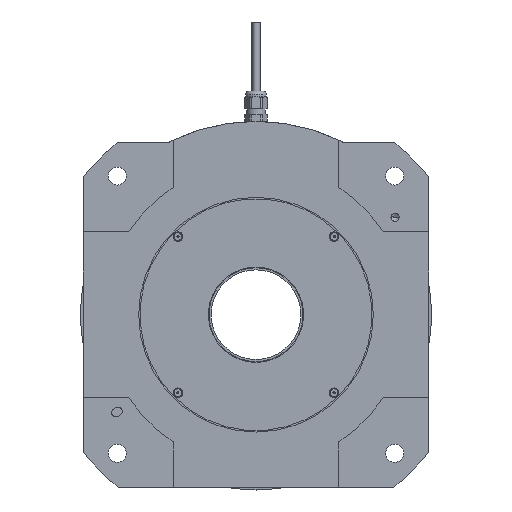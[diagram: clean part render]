
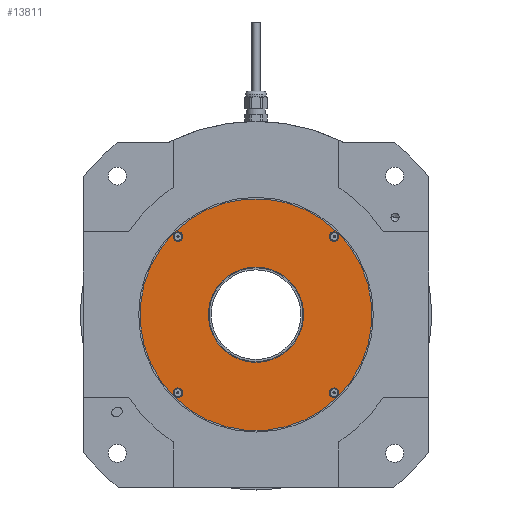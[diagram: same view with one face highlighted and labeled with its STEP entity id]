
A CAD part, front view. The second image highlights one B-rep face of the part: STEP entity #13811.
In plain terms, the highlighted planar face has unit normal (0, -1, 0).
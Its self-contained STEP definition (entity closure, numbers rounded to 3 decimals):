
#37 = EDGE_CURVE ( 'NONE', #7157, #21520, #25900, .T. ) ;
#582 = CARTESIAN_POINT ( 'NONE',  ( 56.569, 1.5, -56.569 ) ) ;
#743 = AXIS2_PLACEMENT_3D ( 'NONE', #2066, #18224, #12539 ) ;
#1050 = EDGE_LOOP ( 'NONE', ( #25896, #25505 ) ) ;
#1263 = ORIENTED_EDGE ( 'NONE', *, *, #20908, .T. ) ;
#1483 = CIRCLE ( 'NONE', #21371, 34.5 ) ;
#1626 = DIRECTION ( 'NONE',  ( -0.707, 0., 0.707 ) ) ;
#1827 = CARTESIAN_POINT ( 'NONE',  ( -56.569, 1.5, -56.569 ) ) ;
#1958 = VERTEX_POINT ( 'NONE', #3382 ) ;
#2066 = CARTESIAN_POINT ( 'NONE',  ( 56.569, 1.5, -56.569 ) ) ;
#2503 = CARTESIAN_POINT ( 'NONE',  ( 0., 1.5, 0. ) ) ;
#2561 = VERTEX_POINT ( 'NONE', #24650 ) ;
#2697 = DIRECTION ( 'NONE',  ( 0., 1., 0. ) ) ;
#3147 = VERTEX_POINT ( 'NONE', #3899 ) ;
#3333 = DIRECTION ( 'NONE',  ( 0.707, 0., -0.707 ) ) ;
#3355 = DIRECTION ( 'NONE',  ( 0.707, 0., -0.707 ) ) ;
#3356 = DIRECTION ( 'NONE',  ( 0., 1., 0. ) ) ;
#3382 = CARTESIAN_POINT ( 'NONE',  ( -57.983, 1.5, -55.154 ) ) ;
#3873 = CARTESIAN_POINT ( 'NONE',  ( 56.569, 1.5, 56.569 ) ) ;
#3899 = CARTESIAN_POINT ( 'NONE',  ( 24.395, 1.5, -24.395 ) ) ;
#4083 = VERTEX_POINT ( 'NONE', #16720 ) ;
#4586 = ORIENTED_EDGE ( 'NONE', *, *, #20556, .F. ) ;
#5010 = DIRECTION ( 'NONE',  ( 0., 1., 0. ) ) ;
#5174 = FACE_BOUND ( 'NONE', #24285, .T. ) ;
#5944 = CARTESIAN_POINT ( 'NONE',  ( 56.569, 1.5, 56.569 ) ) ;
#6692 = CARTESIAN_POINT ( 'NONE',  ( -55.154, 1.5, -57.983 ) ) ;
#7157 = VERTEX_POINT ( 'NONE', #24456 ) ;
#7349 = EDGE_LOOP ( 'NONE', ( #17542, #1263 ) ) ;
#7419 = FACE_BOUND ( 'NONE', #1050, .T. ) ;
#7607 = VERTEX_POINT ( 'NONE', #6692 ) ;
#7847 = DIRECTION ( 'NONE',  ( 0., 1., 0. ) ) ;
#7952 = DIRECTION ( 'NONE',  ( 0., 1., 0. ) ) ;
#8115 = CIRCLE ( 'NONE', #8178, 34.5 ) ;
#8178 = AXIS2_PLACEMENT_3D ( 'NONE', #13657, #7952, #9683 ) ;
#8550 = AXIS2_PLACEMENT_3D ( 'NONE', #3873, #7847, #16065 ) ;
#8587 = DIRECTION ( 'NONE',  ( 0.707, 0., -0.707 ) ) ;
#8639 = EDGE_CURVE ( 'NONE', #4083, #12929, #20186, .T. ) ;
#8852 = AXIS2_PLACEMENT_3D ( 'NONE', #17001, #2697, #24955 ) ;
#9683 = DIRECTION ( 'NONE',  ( 0.707, 0., -0.707 ) ) ;
#9790 = VERTEX_POINT ( 'NONE', #13780 ) ;
#9920 = DIRECTION ( 'NONE',  ( 0.707, 0., 0.707 ) ) ;
#10001 = CARTESIAN_POINT ( 'NONE',  ( -56.569, 1.5, 56.569 ) ) ;
#10519 = EDGE_CURVE ( 'NONE', #23707, #25472, #19859, .T. ) ;
#11261 = CIRCLE ( 'NONE', #13802, 2. ) ;
#11323 = EDGE_CURVE ( 'NONE', #2561, #20420, #18190, .T. ) ;
#11400 = EDGE_LOOP ( 'NONE', ( #12484, #22764 ) ) ;
#11409 = FACE_BOUND ( 'NONE', #11400, .T. ) ;
#11738 = EDGE_CURVE ( 'NONE', #7607, #1958, #19760, .T. ) ;
#11885 = DIRECTION ( 'NONE',  ( 0., 1., 0. ) ) ;
#12063 = CIRCLE ( 'NONE', #21347, 84. ) ;
#12143 = AXIS2_PLACEMENT_3D ( 'NONE', #21808, #11885, #21670 ) ;
#12289 = EDGE_CURVE ( 'NONE', #25472, #23707, #15556, .T. ) ;
#12420 = EDGE_CURVE ( 'NONE', #12929, #4083, #13024, .T. ) ;
#12484 = ORIENTED_EDGE ( 'NONE', *, *, #12289, .T. ) ;
#12539 = DIRECTION ( 'NONE',  ( -0.707, 0., 0.707 ) ) ;
#12916 = ORIENTED_EDGE ( 'NONE', *, *, #11323, .F. ) ;
#12929 = VERTEX_POINT ( 'NONE', #16265 ) ;
#13024 = CIRCLE ( 'NONE', #25289, 2. ) ;
#13187 = AXIS2_PLACEMENT_3D ( 'NONE', #13266, #15780, #3333 ) ;
#13266 = CARTESIAN_POINT ( 'NONE',  ( 0., 1.5, 0. ) ) ;
#13657 = CARTESIAN_POINT ( 'NONE',  ( 0., 1.5, 0. ) ) ;
#13780 = CARTESIAN_POINT ( 'NONE',  ( -24.395, 1.5, 24.395 ) ) ;
#13783 = DIRECTION ( 'NONE',  ( 0., 1., 0. ) ) ;
#13802 = AXIS2_PLACEMENT_3D ( 'NONE', #1827, #25810, #9920 ) ;
#13811 = ADVANCED_FACE ( 'NONE', ( #23327, #5174, #7419, #11409, #25573, #15647 ), #23459, .F. ) ;
#14228 = ORIENTED_EDGE ( 'NONE', *, *, #37, .T. ) ;
#14536 = CARTESIAN_POINT ( 'NONE',  ( 0., 1.5, 0. ) ) ;
#15107 = CARTESIAN_POINT ( 'NONE',  ( 0., 1.5, 0. ) ) ;
#15556 = CIRCLE ( 'NONE', #18075, 2. ) ;
#15647 = FACE_OUTER_BOUND ( 'NONE', #21452, .T. ) ;
#15775 = CARTESIAN_POINT ( 'NONE',  ( 55.154, 1.5, 57.983 ) ) ;
#15780 = DIRECTION ( 'NONE',  ( 0., 1., 0. ) ) ;
#16065 = DIRECTION ( 'NONE',  ( -0.707, 0., -0.707 ) ) ;
#16265 = CARTESIAN_POINT ( 'NONE',  ( 55.154, 1.5, -55.154 ) ) ;
#16537 = CARTESIAN_POINT ( 'NONE',  ( 59.397, 1.5, -59.397 ) ) ;
#16720 = CARTESIAN_POINT ( 'NONE',  ( 57.983, 1.5, -57.983 ) ) ;
#16809 = DIRECTION ( 'NONE',  ( 0.707, 0., -0.707 ) ) ;
#17001 = CARTESIAN_POINT ( 'NONE',  ( -56.569, 1.5, 56.569 ) ) ;
#17542 = ORIENTED_EDGE ( 'NONE', *, *, #23056, .T. ) ;
#17709 = EDGE_CURVE ( 'NONE', #21520, #7157, #23117, .T. ) ;
#17726 = ORIENTED_EDGE ( 'NONE', *, *, #8639, .T. ) ;
#17780 = AXIS2_PLACEMENT_3D ( 'NONE', #15107, #5010, #8587 ) ;
#17949 = DIRECTION ( 'NONE',  ( 0., 1., 0. ) ) ;
#18075 = AXIS2_PLACEMENT_3D ( 'NONE', #10001, #17949, #20314 ) ;
#18080 = ORIENTED_EDGE ( 'NONE', *, *, #17709, .T. ) ;
#18190 = CIRCLE ( 'NONE', #17780, 84. ) ;
#18224 = DIRECTION ( 'NONE',  ( 0., 1., 0. ) ) ;
#18657 = DIRECTION ( 'NONE',  ( 0., 1., 0. ) ) ;
#19720 = AXIS2_PLACEMENT_3D ( 'NONE', #5944, #13783, #21965 ) ;
#19760 = CIRCLE ( 'NONE', #12143, 2. ) ;
#19859 = CIRCLE ( 'NONE', #8852, 2. ) ;
#20186 = CIRCLE ( 'NONE', #743, 2. ) ;
#20314 = DIRECTION ( 'NONE',  ( 0.707, 0., -0.707 ) ) ;
#20420 = VERTEX_POINT ( 'NONE', #16537 ) ;
#20556 = EDGE_CURVE ( 'NONE', #20420, #2561, #12063, .T. ) ;
#20908 = EDGE_CURVE ( 'NONE', #9790, #3147, #1483, .T. ) ;
#21347 = AXIS2_PLACEMENT_3D ( 'NONE', #2503, #18657, #16809 ) ;
#21371 = AXIS2_PLACEMENT_3D ( 'NONE', #14536, #22603, #3355 ) ;
#21452 = EDGE_LOOP ( 'NONE', ( #12916, #4586 ) ) ;
#21520 = VERTEX_POINT ( 'NONE', #15775 ) ;
#21670 = DIRECTION ( 'NONE',  ( 0.707, 0., 0.707 ) ) ;
#21808 = CARTESIAN_POINT ( 'NONE',  ( -56.569, 1.5, -56.569 ) ) ;
#21965 = DIRECTION ( 'NONE',  ( -0.707, 0., -0.707 ) ) ;
#22603 = DIRECTION ( 'NONE',  ( 0., 1., 0. ) ) ;
#22764 = ORIENTED_EDGE ( 'NONE', *, *, #10519, .T. ) ;
#23056 = EDGE_CURVE ( 'NONE', #3147, #9790, #8115, .T. ) ;
#23117 = CIRCLE ( 'NONE', #19720, 2. ) ;
#23182 = CARTESIAN_POINT ( 'NONE',  ( -55.154, 1.5, 55.154 ) ) ;
#23203 = EDGE_LOOP ( 'NONE', ( #14228, #18080 ) ) ;
#23327 = FACE_BOUND ( 'NONE', #23203, .T. ) ;
#23459 = PLANE ( 'NONE',  #13187 ) ;
#23707 = VERTEX_POINT ( 'NONE', #26139 ) ;
#24221 = ORIENTED_EDGE ( 'NONE', *, *, #12420, .T. ) ;
#24285 = EDGE_LOOP ( 'NONE', ( #17726, #24221 ) ) ;
#24456 = CARTESIAN_POINT ( 'NONE',  ( 57.983, 1.5, 55.154 ) ) ;
#24650 = CARTESIAN_POINT ( 'NONE',  ( -59.397, 1.5, 59.397 ) ) ;
#24955 = DIRECTION ( 'NONE',  ( 0.707, 0., -0.707 ) ) ;
#25289 = AXIS2_PLACEMENT_3D ( 'NONE', #582, #3356, #1626 ) ;
#25472 = VERTEX_POINT ( 'NONE', #23182 ) ;
#25482 = EDGE_CURVE ( 'NONE', #1958, #7607, #11261, .T. ) ;
#25505 = ORIENTED_EDGE ( 'NONE', *, *, #25482, .T. ) ;
#25573 = FACE_BOUND ( 'NONE', #7349, .T. ) ;
#25810 = DIRECTION ( 'NONE',  ( 0., 1., 0. ) ) ;
#25896 = ORIENTED_EDGE ( 'NONE', *, *, #11738, .T. ) ;
#25900 = CIRCLE ( 'NONE', #8550, 2. ) ;
#26139 = CARTESIAN_POINT ( 'NONE',  ( -57.983, 1.5, 57.983 ) ) ;
